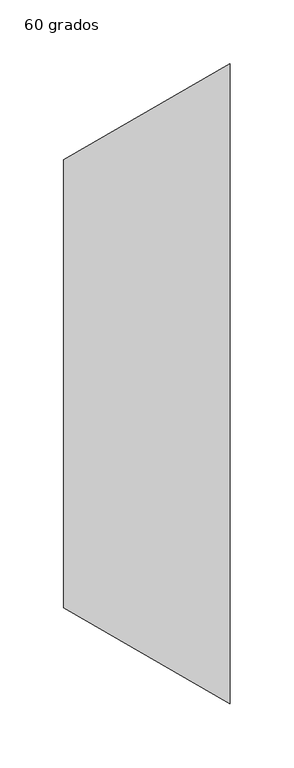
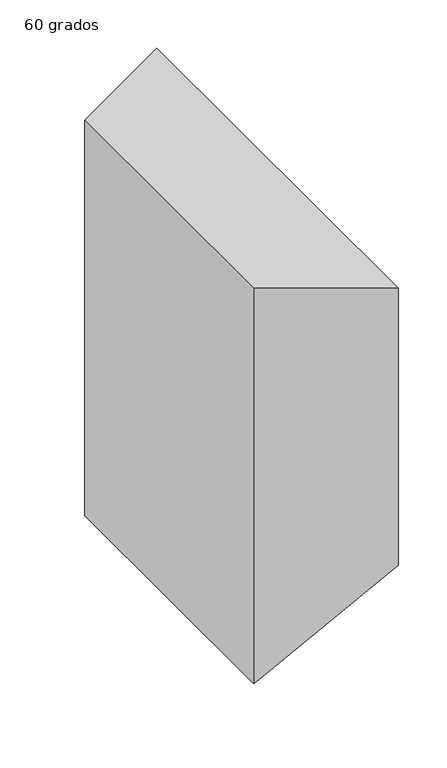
"""IFC4 building model written with IfcOpenShell, lengths in millimetres: duct fitting geometry, M_Transición rectangular - Ángulo : 60 grados."""

from ifc_helpers import new_model, si_unit, origin, place, context, project, spatial, faceted_brep, source, transform, mapped, element, save


def duct_fitting_60_grados_f446e6a6(model_context):
    return source(origin(), model_context, "Body", "Brep", [
        faceted_brep([(129.9038106, -250.0, 249.9999942), (129.9038106, -250.0, -100.0000058), (129.9038106, 250.0, -100.0000058), (129.9038106, 250.0, 249.9999942), (0.0, -175.0, 250.0), (0.0, 175.0, 250.0), (0.0, 175.0, -250.0), (0.0, -175.0, -250.0)], [[[0, 1, 2, 3]], [[4, 5, 6, 7]], [[4, 7, 1, 0]], [[7, 6, 2, 1]], [[6, 5, 3, 2]], [[5, 4, 0, 3]]]),
    ])


if __name__ == "__main__":
    model = new_model("IFC4")
    model_context = context("Model", 3, world=origin())
    ifc_project = project(units=[si_unit("LENGTHUNIT", "METRE", prefix="MILLI")], contexts=[model_context])
    site = spatial("IfcSite", under=ifc_project)
    building = spatial("IfcBuilding", under=site)
    placement = place(None, origin())
    duct_fitting_60_grados_shape = duct_fitting_60_grados_f446e6a6(model_context)
    element("IfcDuctFitting", 1, ObjectType="M_Transición rectangular - Ángulo : 60 grados", at=placement, inside=building, context=model_context, shape_type="MappedRepresentation", body=[
        mapped(duct_fitting_60_grados_shape, transform((0.0, 0.0, 0.0), x_axis=(1.0, 0.0, 0.0), y_axis=(0.0, 1.0, 0.0), z_axis=(0.0, 0.0, 1.0))),
    ])
    save(model, "model.ifc")
